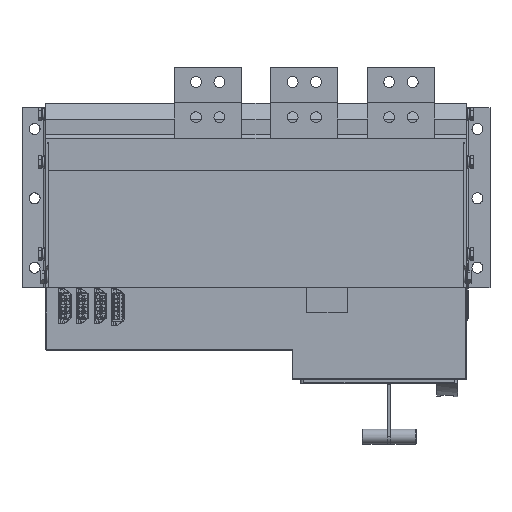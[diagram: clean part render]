
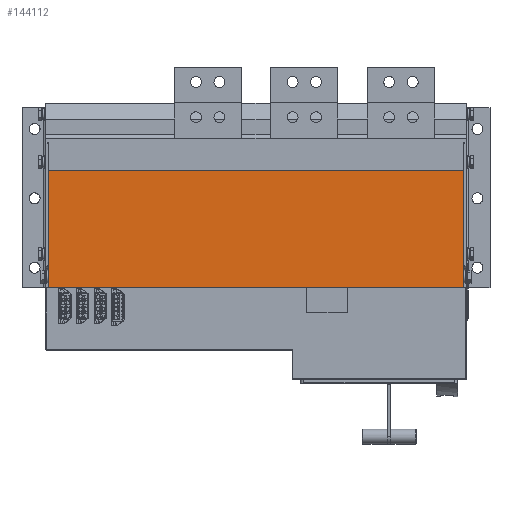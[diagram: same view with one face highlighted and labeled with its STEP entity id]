
A CAD part, top view. The second image highlights one B-rep face of the part: STEP entity #144112.
In plain terms, the highlighted planar face has unit normal (0, 0, 1).
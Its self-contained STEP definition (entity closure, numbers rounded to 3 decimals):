
#4110 = CARTESIAN_POINT ( 'NONE',  ( 173.662, 0., 224.963 ) ) ;
#5764 = VECTOR ( 'NONE', #25352, 1000. ) ;
#7842 = EDGE_LOOP ( 'NONE', ( #178163, #85002, #88183, #163681 ) ) ;
#8891 = VERTEX_POINT ( 'NONE', #102923 ) ;
#11125 = LINE ( 'NONE', #155418, #5764 ) ;
#11646 = DIRECTION ( 'NONE',  ( 0., 0., 1. ) ) ;
#25352 = DIRECTION ( 'NONE',  ( 1., 0., 0. ) ) ;
#27174 = CARTESIAN_POINT ( 'NONE',  ( 33.662, 0., 224.963 ) ) ;
#39589 = DIRECTION ( 'NONE',  ( 0., -1., 0. ) ) ;
#45012 = CARTESIAN_POINT ( 'NONE',  ( 0., 494., 224.963 ) ) ;
#48909 = CARTESIAN_POINT ( 'NONE',  ( 33.662, 494., 224.963 ) ) ;
#51021 = VECTOR ( 'NONE', #77213, 1000. ) ;
#70675 = LINE ( 'NONE', #45012, #133401 ) ;
#71605 = DIRECTION ( 'NONE',  ( 1., 0., 0. ) ) ;
#77213 = DIRECTION ( 'NONE',  ( 0., -1., 0. ) ) ;
#81033 = DIRECTION ( 'NONE',  ( 1., 0., 0. ) ) ;
#81962 = PLANE ( 'NONE',  #149417 ) ;
#85002 = ORIENTED_EDGE ( 'NONE', *, *, #101978, .F. ) ;
#87229 = VECTOR ( 'NONE', #39589, 1000. ) ;
#88183 = ORIENTED_EDGE ( 'NONE', *, *, #167196, .T. ) ;
#97084 = CARTESIAN_POINT ( 'NONE',  ( 33.662, 0., 224.963 ) ) ;
#101978 = EDGE_CURVE ( 'NONE', #176363, #103473, #70675, .T. ) ;
#102923 = CARTESIAN_POINT ( 'NONE',  ( 173.662, 0., 224.963 ) ) ;
#103473 = VERTEX_POINT ( 'NONE', #110672 ) ;
#106651 = LINE ( 'NONE', #4110, #51021 ) ;
#110672 = CARTESIAN_POINT ( 'NONE',  ( 173.662, 494., 224.963 ) ) ;
#111387 = FACE_OUTER_BOUND ( 'NONE', #7842, .T. ) ;
#111789 = LINE ( 'NONE', #27174, #87229 ) ;
#117322 = EDGE_CURVE ( 'NONE', #103473, #8891, #106651, .T. ) ;
#120049 = EDGE_CURVE ( 'NONE', #167920, #8891, #11125, .T. ) ;
#133401 = VECTOR ( 'NONE', #71605, 1000. ) ;
#137976 = CARTESIAN_POINT ( 'NONE',  ( 33.662, 0., 224.963 ) ) ;
#144112 = ADVANCED_FACE ( 'NONE', ( #111387 ), #81962, .T. ) ;
#149417 = AXIS2_PLACEMENT_3D ( 'NONE', #137976, #11646, #81033 ) ;
#155418 = CARTESIAN_POINT ( 'NONE',  ( 0., 0., 224.963 ) ) ;
#163681 = ORIENTED_EDGE ( 'NONE', *, *, #120049, .T. ) ;
#167196 = EDGE_CURVE ( 'NONE', #176363, #167920, #111789, .T. ) ;
#167920 = VERTEX_POINT ( 'NONE', #97084 ) ;
#176363 = VERTEX_POINT ( 'NONE', #48909 ) ;
#178163 = ORIENTED_EDGE ( 'NONE', *, *, #117322, .F. ) ;
